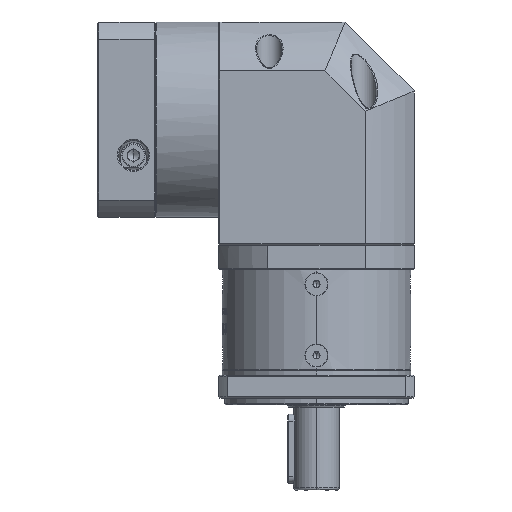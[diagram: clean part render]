
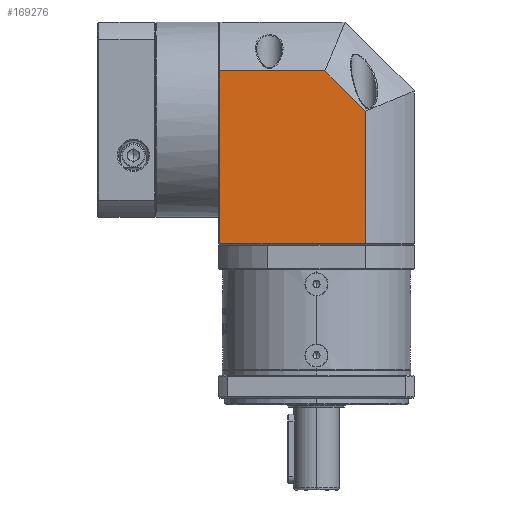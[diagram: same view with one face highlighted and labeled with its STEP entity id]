
A CAD part, left-side view. The second image highlights one B-rep face of the part: STEP entity #169276.
In plain terms, the highlighted planar face has unit normal (-1, 0, 0).
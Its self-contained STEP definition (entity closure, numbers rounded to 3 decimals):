
#13044 = CARTESIAN_POINT ( 'NONE',  ( -129.934, 75.993, 33.438 ) ) ;
#13091 = AXIS2_PLACEMENT_3D ( 'NONE', #111748, #29502, #125579 ) ;
#13545 = VECTOR ( 'NONE', #95896, 1000. ) ;
#15606 = PLANE ( 'NONE',  #13091 ) ;
#17661 = VECTOR ( 'NONE', #89129, 1000. ) ;
#19783 = EDGE_CURVE ( 'NONE', #78511, #102784, #34609, .T. ) ;
#23127 = ORIENTED_EDGE ( 'NONE', *, *, #174225, .F. ) ;
#24305 = ORIENTED_EDGE ( 'NONE', *, *, #126854, .T. ) ;
#25076 = CARTESIAN_POINT ( 'NONE',  ( -129.934, 75.493, 33.438 ) ) ;
#26908 = DIRECTION ( 'NONE',  ( 0., -1., 0. ) ) ;
#29502 = DIRECTION ( 'NONE',  ( 1., 0., 0. ) ) ;
#34609 = LINE ( 'NONE', #176109, #176163 ) ;
#39476 = DIRECTION ( 'NONE',  ( 0., -0.707, -0.707 ) ) ;
#40605 = CARTESIAN_POINT ( 'NONE',  ( -129.934, 12.28, 133.438 ) ) ;
#50179 = LINE ( 'NONE', #40605, #13545 ) ;
#54299 = LINE ( 'NONE', #74094, #17661 ) ;
#64795 = EDGE_LOOP ( 'NONE', ( #24305, #23127, #108254, #167694, #105380 ) ) ;
#67845 = CARTESIAN_POINT ( 'NONE',  ( -129.934, 75.993, 108.651 ) ) ;
#73952 = CARTESIAN_POINT ( 'NONE',  ( -129.934, 29.81, 108.651 ) ) ;
#74094 = CARTESIAN_POINT ( 'NONE',  ( -129.934, 75.493, 129.938 ) ) ;
#78511 = VERTEX_POINT ( 'NONE', #73952 ) ;
#89129 = DIRECTION ( 'NONE',  ( 0., 0., 1. ) ) ;
#95896 = DIRECTION ( 'NONE',  ( 0., 0., -1. ) ) ;
#96135 = VECTOR ( 'NONE', #136733, 1000. ) ;
#100381 = LINE ( 'NONE', #67845, #168846 ) ;
#102784 = VERTEX_POINT ( 'NONE', #162376 ) ;
#105380 = ORIENTED_EDGE ( 'NONE', *, *, #174515, .F. ) ;
#108254 = ORIENTED_EDGE ( 'NONE', *, *, #19783, .F. ) ;
#111748 = CARTESIAN_POINT ( 'NONE',  ( -129.934, 75.993, 129.938 ) ) ;
#125579 = DIRECTION ( 'NONE',  ( 0., 1., 0. ) ) ;
#126837 = EDGE_CURVE ( 'NONE', #142622, #78511, #100381, .T. ) ;
#126854 = EDGE_CURVE ( 'NONE', #160607, #159140, #136834, .T. ) ;
#136733 = DIRECTION ( 'NONE',  ( 0., -1., 0. ) ) ;
#136834 = LINE ( 'NONE', #13044, #96135 ) ;
#137279 = CARTESIAN_POINT ( 'NONE',  ( -129.934, 75.493, 108.651 ) ) ;
#142622 = VERTEX_POINT ( 'NONE', #137279 ) ;
#159140 = VERTEX_POINT ( 'NONE', #163875 ) ;
#160607 = VERTEX_POINT ( 'NONE', #25076 ) ;
#162376 = CARTESIAN_POINT ( 'NONE',  ( -129.934, 12.28, 91.121 ) ) ;
#163875 = CARTESIAN_POINT ( 'NONE',  ( -129.934, 12.28, 33.438 ) ) ;
#167694 = ORIENTED_EDGE ( 'NONE', *, *, #126837, .F. ) ;
#168397 = FACE_OUTER_BOUND ( 'NONE', #64795, .T. ) ;
#168846 = VECTOR ( 'NONE', #26908, 1000. ) ;
#169276 = ADVANCED_FACE ( 'NONE', ( #168397 ), #15606, .F. ) ;
#174225 = EDGE_CURVE ( 'NONE', #102784, #159140, #50179, .T. ) ;
#174515 = EDGE_CURVE ( 'NONE', #160607, #142622, #54299, .T. ) ;
#176109 = CARTESIAN_POINT ( 'NONE',  ( -129.934, 29.81, 108.651 ) ) ;
#176163 = VECTOR ( 'NONE', #39476, 1000. ) ;
